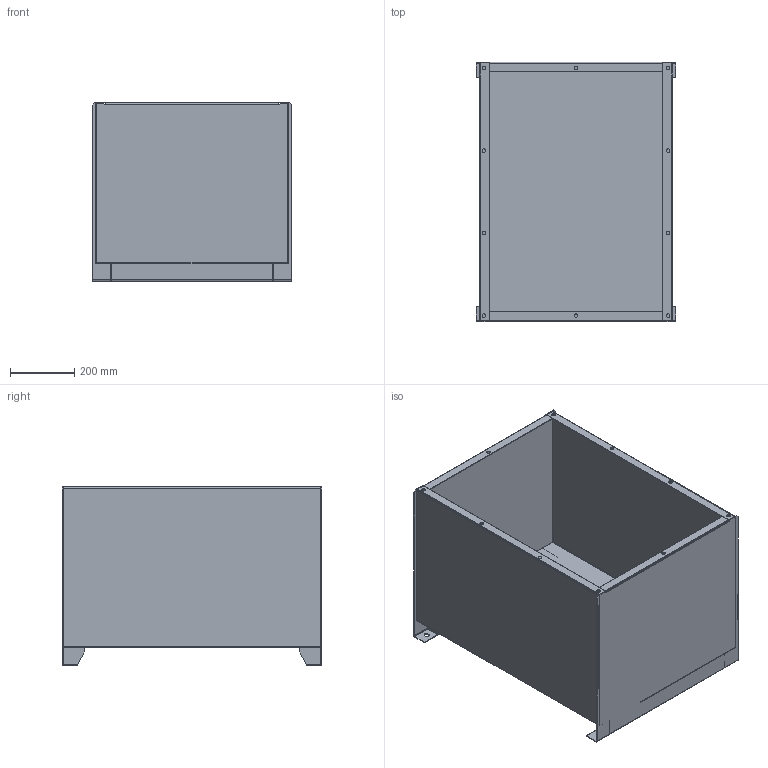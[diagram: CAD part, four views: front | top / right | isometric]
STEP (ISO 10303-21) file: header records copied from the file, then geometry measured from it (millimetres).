
FILE_DESCRIPTION(('STEP AP203'),'2;1');
FILE_NAME('CF180.stp','2017-05-16T14:29:38',(''),(''),'2012.1.115','THINKDESIGN','');
FILE_SCHEMA(('CONFIG_CONTROL_DESIGN'));
Length unit declared in the file: millimetre
Bounding box: 620 x 805 x 555 mm (x, y, z)
Volume: 5241073.2 mm3; surface area: 4221162.3 mm2
Topology: 7 solids, 7 shells, 160 faces, 394 edges, 248 vertices
Faces by surface type: plane 80, bspline 42, cylinder 38
Full cylindrical faces by diameter (mm): 11.2 x10
Entity records: 5295 total; most frequent: CARTESIAN_POINT 1424, ORIENTED_EDGE 788, DIRECTION 726, EDGE_CURVE 394, VECTOR 298, LINE 298, VERTEX_POINT 248, AXIS2_PLACEMENT_3D 214
